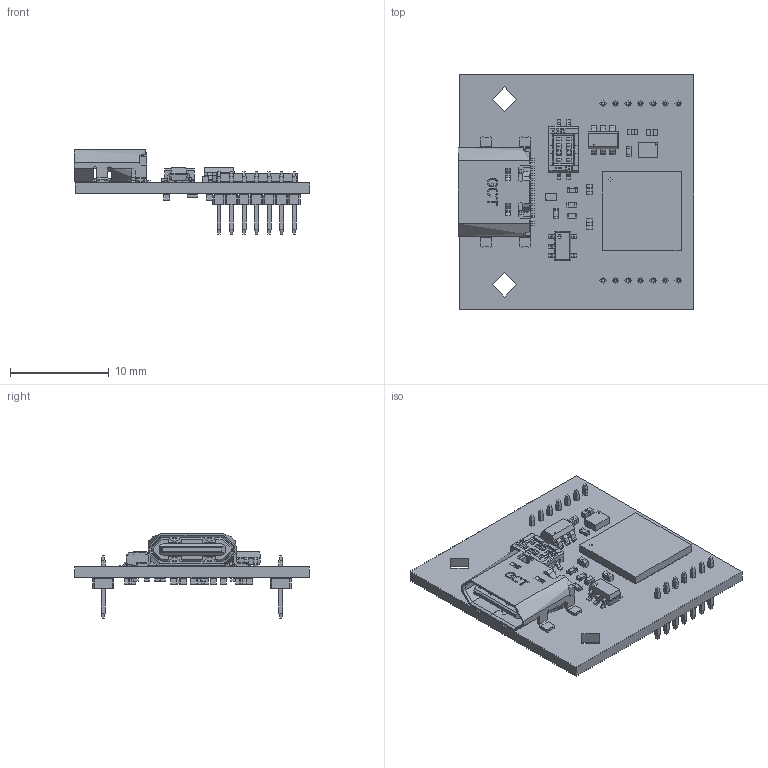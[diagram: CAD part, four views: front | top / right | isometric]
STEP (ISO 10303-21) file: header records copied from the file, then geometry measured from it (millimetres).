
FILE_DESCRIPTION(('KiCad electronic assembly'),'2;1');
FILE_NAME('xljtag1.step','2025-07-22T14:41:27',('Pcbnew'),('Kicad'), 'Open CASCADE STEP processor 7.6','KiCad to STEP converter','Unknown' );
FILE_SCHEMA(('AUTOMOTIVE_DESIGN { 1 0 10303 214 1 1 1 1 }'));
Length unit declared in the file: millimetre
Products named in the file (44): xljtag1 1; R_0402_1005Metric; Solid1; Solid2; Solid3; FB_0402_1005Metric; SOT23-6L_STM; SOT23-5; NIDEC_CVS-02TB; CVS-02-body; CVS-slider; CVS-slider001; CVS-B3-terminal; Shapes; X-axis; XY-plane; SITIME_QFN_2016_4pins; C_0402_1005Metric; LED_XZxx68x-2; FTDI_QFN_H-56Q-TRAY; GCT-USB4110-GF-A; Ãƒâ€¡ÃƒÂÃ‚Â³ÃƒÂ½-\N\
Ãƒâ‚¬Ã‚Â­Ãƒâ€°ÃƒÂ¬1\N\2; NEXPERIA_PCMF1USB3SZ; SULLINS_GRPB071VWVN-RC; Cut-Extrude1; xljtag1_PCB
Assembly tree (85 placements, depth 4):
  xljtag1 1
    R_0402_1005Metric  x14
      Solid1
      Solid2
      Solid2
      Solid3
    FB_0402_1005Metric  x3
    SOT23-6L_STM
    SOT23-5
    NIDEC_CVS-02TB
      CVS-02-body
      CVS-slider
      CVS-slider001
      CVS-B3-terminal
      Shapes
        CVS-02-body
        CVS-slider
        CVS-slider001
        CVS-B3-terminal
      X-axis  x3
      XY-plane  x3
    SITIME_QFN_2016_4pins
    C_0402_1005Metric  x14
    LED_XZxx68x-2
    FTDI_QFN_H-56Q-TRAY
    GCT-USB4110-GF-A
      Ãƒâ€¡ÃƒÂÃ‚Â³ÃƒÂ½-\N\
Ãƒâ‚¬Ã‚Â­Ãƒâ€°ÃƒÂ¬1\N\2
      Shapes
        Ãƒâ€¡ÃƒÂÃ‚Â³ÃƒÂ½-\N\
Ãƒâ‚¬Ã‚Â­Ãƒâ€°ÃƒÂ¬1\N\2
      X-axis  x3
      XY-plane  x3
    NEXPERIA_PCMF1USB3SZ
    SULLINS_GRPB071VWVN-RC  x2
      Cut-Extrude1
      Cut-Extrude1
      Cut-Extrude1
      Cut-Extrude1
      Cut-Extrude1
      Cut-Extrude1
      Cut-Extrude1
      Cut-Extrude1
      Cut-Extrude1
      Cut-Extrude1
      Cut-Extrude1
      Cut-Extrude1
      Cut-Extrude1
      Cut-Extrude1
      Cut-Extrude1
    xljtag1_PCB
Bounding box: 23.9 x 23.8 x 8.54 mm (x, y, z)
Volume: 954.2 mm3; surface area: 3137 mm2
Topology: 213 solids, 243 shells, 4494 faces, 11705 edges, 7622 vertices
Faces by surface type: bspline 3204, plane 1194, cylinder 84, sphere 12
Full cylindrical faces by diameter (mm): 0.088 x1, 0.15 x1, 0.4 x1, 0.65 x14, 0.762 x2, 2.5 x2
Entity records: 70234 total; most frequent: CARTESIAN_POINT 25980, ORIENTED_EDGE 11878, EDGE_CURVE 5995, DIRECTION 4026, VERTEX_POINT 3926, B_SPLINE_CURVE_WITH_KNOTS 3437, FACE_BOUND 2395, EDGE_LOOP 2395
